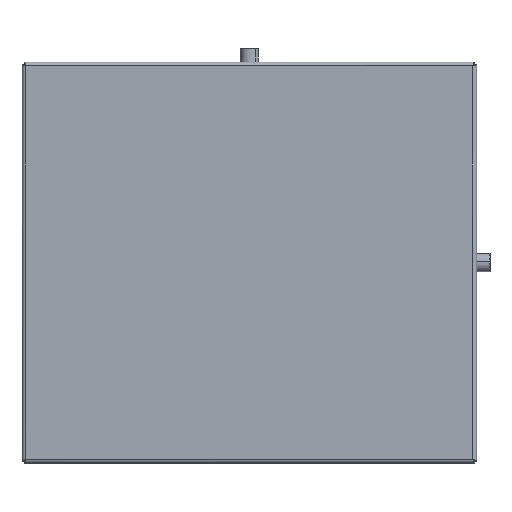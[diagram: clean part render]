
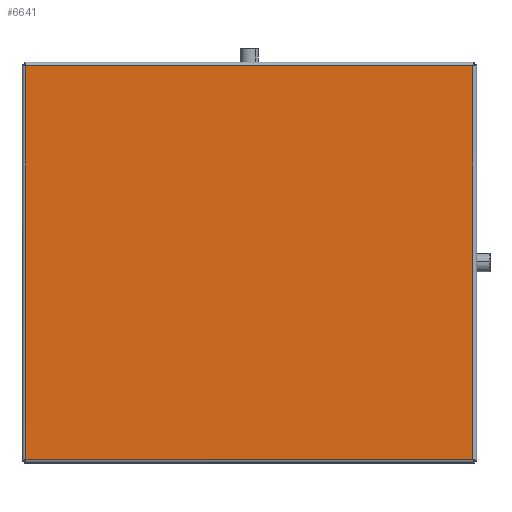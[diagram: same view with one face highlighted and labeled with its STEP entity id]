
A CAD part, front view. The second image highlights one B-rep face of the part: STEP entity #6641.
In plain terms, the highlighted planar face has unit normal (0, -1, 0).
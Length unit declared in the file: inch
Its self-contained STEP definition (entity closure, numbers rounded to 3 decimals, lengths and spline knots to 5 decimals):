
#26 = FACE_OUTER_BOUND ( 'NONE', #3118, .T. ) ;
#125 = CARTESIAN_POINT ( 'NONE',  ( 10.50674, -1.34419, -16.55906 ) ) ;
#442 = ORIENTED_EDGE ( 'NONE', *, *, #5638, .T. ) ;
#1526 = ORIENTED_EDGE ( 'NONE', *, *, #5616, .T. ) ;
#1574 = DIRECTION ( 'NONE',  ( 1., 0., 0. ) ) ;
#1871 = CARTESIAN_POINT ( 'NONE',  ( -23.06171, -1.34419, -16.55906 ) ) ;
#2165 = ORIENTED_EDGE ( 'NONE', *, *, #5630, .T. ) ;
#2441 = VECTOR ( 'NONE', #1574, 39.37008 ) ;
#2609 = LINE ( 'NONE', #1871, #2441 ) ;
#2629 = CARTESIAN_POINT ( 'NONE',  ( -22.94006, -1.34419, 13.00938 ) ) ;
#2637 = DIRECTION ( 'NONE',  ( 0., 0., -1. ) ) ;
#2689 = DIRECTION ( 'NONE',  ( -1., 0., 0. ) ) ;
#2696 = CARTESIAN_POINT ( 'NONE',  ( 10.62838, -1.34419, 12.88774 ) ) ;
#2699 = ORIENTED_EDGE ( 'NONE', *, *, #5742, .T. ) ;
#2751 = DIRECTION ( 'NONE',  ( 0., 0., 1. ) ) ;
#2760 = CARTESIAN_POINT ( 'NONE',  ( 10.50674, -1.34419, -16.6807 ) ) ;
#2936 = CARTESIAN_POINT ( 'NONE',  ( -22.94006, -1.34419, -16.55906 ) ) ;
#3015 = VECTOR ( 'NONE', #2751, 39.37008 ) ;
#3019 = VERTEX_POINT ( 'NONE', #7232 ) ;
#3118 = EDGE_LOOP ( 'NONE', ( #1526, #2165, #442, #2699 ) ) ;
#3704 = DIRECTION ( 'NONE',  ( 0., 0., -1. ) ) ;
#3707 = DIRECTION ( 'NONE',  ( 0., -1., 0. ) ) ;
#3745 = AXIS2_PLACEMENT_3D ( 'NONE', #3781, #3707, #3704 ) ;
#3781 = CARTESIAN_POINT ( 'NONE',  ( -23.21666, -1.34419, -16.83566 ) ) ;
#3811 = PLANE ( 'NONE',  #3745 ) ;
#4228 = CARTESIAN_POINT ( 'NONE',  ( -22.94006, -1.34419, 12.88774 ) ) ;
#4244 = LINE ( 'NONE', #2629, #7244 ) ;
#4633 = LINE ( 'NONE', #2760, #3015 ) ;
#5425 = VERTEX_POINT ( 'NONE', #4228 ) ;
#5616 = EDGE_CURVE ( 'NONE', #5951, #3019, #4633, .T. ) ;
#5630 = EDGE_CURVE ( 'NONE', #3019, #5425, #6256, .T. ) ;
#5638 = EDGE_CURVE ( 'NONE', #5425, #6688, #4244, .T. ) ;
#5742 = EDGE_CURVE ( 'NONE', #6688, #5951, #2609, .T. ) ;
#5873 = VECTOR ( 'NONE', #2689, 39.37008 ) ;
#5951 = VERTEX_POINT ( 'NONE', #125 ) ;
#6256 = LINE ( 'NONE', #2696, #5873 ) ;
#6641 = ADVANCED_FACE ( 'NONE', ( #26 ), #3811, .T. ) ;
#6688 = VERTEX_POINT ( 'NONE', #2936 ) ;
#7232 = CARTESIAN_POINT ( 'NONE',  ( 10.50674, -1.34419, 12.88774 ) ) ;
#7244 = VECTOR ( 'NONE', #2637, 39.37008 ) ;
